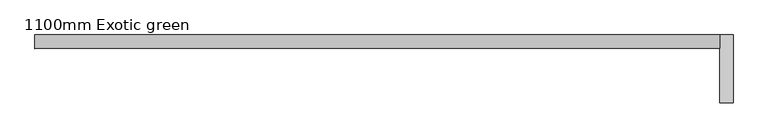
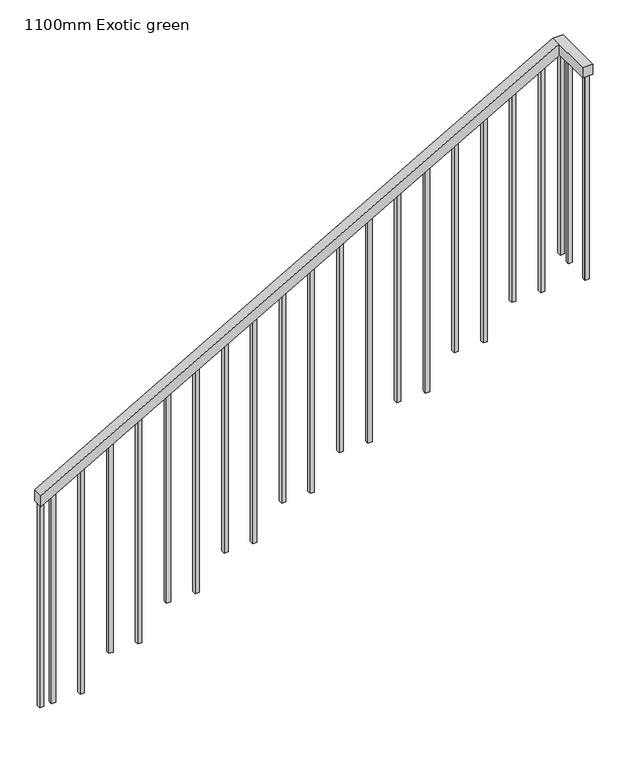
"""IFC4 building model written with IfcOpenShell, lengths in millimetres: railing geometry, 1100mm Exotic green."""

from ifc_helpers import new_model, si_unit, frame, origin, place, context, project, spatial, polyline, outline, extrude, faceted_brep, source, transform, mapped, element, save


def railing_1100mm_exotic_green_3447264b(model_context):
    return source(origin(), model_context, "Body", "SolidModel", [
        faceted_brep([(64486.8244986, 9412.1640155, 3760.0), (64486.8244986, 9412.1640155, 3702.4124447), (64486.8244986, 9362.1640155, 3702.4124447), (64486.8244986, 9362.1640155, 3760.0), (67006.8244986, 9362.1640155, 5200.0), (67006.8244986, 9412.1640155, 5200.0), (67020.1027205, 9362.1640155, 5150.0), (67020.1027205, 9412.1640155, 5150.0), (67031.8244986, 9412.1640155, 5200.0), (67031.8244986, 9362.1640155, 5200.0), (67031.8244986, 9362.1640155, 5150.0), (67031.8244986, 9412.1640155, 5150.0)], [[[0, 1, 2, 3]], [[0, 3, 4, 5]], [[3, 2, 6, 4]], [[2, 1, 7, 6]], [[1, 0, 5, 7]], [[8, 9, 10, 11]], [[7, 5, 8, 11]], [[6, 7, 11, 10]], [[4, 6, 10, 9]], [[5, 4, 9, 8]]]),
        faceted_brep([(67056.8244986, 9412.1640155, 5200.0), (67056.8244986, 9412.1640155, 5150.0), (67006.8244986, 9412.1640155, 5150.0), (67006.8244986, 9412.1640155, 5200.0), (67056.8244986, 9162.1658145, 5200.0), (67006.8244986, 9162.1658145, 5200.0), (67006.8244986, 9162.1658145, 5150.0), (67056.8244986, 9162.1658145, 5150.0)], [[[0, 1, 2, 3]], [[4, 5, 6, 7]], [[0, 3, 5, 4]], [[3, 2, 6, 5]], [[2, 1, 7, 6]], [[1, 0, 4, 7]]]),
        extrude(outline(polyline([(67041.8244986, 9187.1640155), (67041.8244986, 9167.1640155), (67021.8244986, 9167.1640155), (67021.8244986, 9187.1640155), (67041.8244986, 9187.1640155)])), frame((0.0, 0.0, 4100.0), z_axis=(0.0, 0.0, 1.0), x_axis=(1.0, 0.0, 0.0)), (0.0, 0.0, 1.0), 1050.0),
        extrude(outline(polyline([(67041.8244986, 9327.1640155), (67041.8244986, 9307.1640155), (67021.8244986, 9307.1640155), (67021.8244986, 9327.1640155), (67041.8244986, 9327.1640155)])), frame((0.0, 0.0, 4100.0), z_axis=(0.0, 0.0, 1.0), x_axis=(1.0, 0.0, 0.0)), (0.0, 0.0, 1.0), 1050.0),
        extrude(outline(polyline([(3940.0, 66926.8244986), (3940.0, 66946.8244986), (5115.7142857, 66946.8244986), (5104.2857143, 66926.8244986), (3940.0, 66926.8244986)])), frame((0.0, 9377.1640155, 0.0), z_axis=(0.0, 1.0, 0.0), x_axis=(0.0, 0.0, 1.0)), (0.0, 0.0, 1.0), 20.0),
        extrude(outline(polyline([(3940.0, 66786.8244986), (3940.0, 66806.8244986), (5035.7142857, 66806.8244986), (5024.2857143, 66786.8244986), (3940.0, 66786.8244986)])), frame((0.0, 9377.1640155, 0.0), z_axis=(0.0, 1.0, 0.0), x_axis=(0.0, 0.0, 1.0)), (0.0, 0.0, 1.0), 20.0),
        extrude(outline(polyline([(3780.0, 66646.8244986), (3780.0, 66666.8244986), (4955.7142857, 66666.8244986), (4944.2857143, 66646.8244986), (3780.0, 66646.8244986)])), frame((0.0, 9377.1640155, 0.0), z_axis=(0.0, 1.0, 0.0), x_axis=(0.0, 0.0, 1.0)), (0.0, 0.0, 1.0), 20.0),
        extrude(outline(polyline([(3780.0, 66506.8244986), (3780.0, 66526.8244986), (4875.7142857, 66526.8244986), (4864.2857143, 66506.8244986), (3780.0, 66506.8244986)])), frame((0.0, 9377.1640155, 0.0), z_axis=(0.0, 1.0, 0.0), x_axis=(0.0, 0.0, 1.0)), (0.0, 0.0, 1.0), 20.0),
        extrude(outline(polyline([(3620.0, 66366.8244986), (3620.0, 66386.8244986), (4795.7142857, 66386.8244986), (4784.2857143, 66366.8244986), (3620.0, 66366.8244986)])), frame((0.0, 9377.1640155, 0.0), z_axis=(0.0, 1.0, 0.0), x_axis=(0.0, 0.0, 1.0)), (0.0, 0.0, 1.0), 20.0),
        extrude(outline(polyline([(3620.0, 66226.8244986), (3620.0, 66246.8244986), (4715.7142857, 66246.8244986), (4704.2857143, 66226.8244986), (3620.0, 66226.8244986)])), frame((0.0, 9377.1640155, 0.0), z_axis=(0.0, 1.0, 0.0), x_axis=(0.0, 0.0, 1.0)), (0.0, 0.0, 1.0), 20.0),
        extrude(outline(polyline([(3460.0, 66086.8244986), (3460.0, 66106.8244986), (4635.7142857, 66106.8244986), (4624.2857143, 66086.8244986), (3460.0, 66086.8244986)])), frame((0.0, 9377.1640155, 0.0), z_axis=(0.0, 1.0, 0.0), x_axis=(0.0, 0.0, 1.0)), (0.0, 0.0, 1.0), 20.0),
        extrude(outline(polyline([(3460.0, 65946.8244986), (3460.0, 65966.8244986), (4555.7142857, 65966.8244986), (4544.2857143, 65946.8244986), (3460.0, 65946.8244986)])), frame((0.0, 9377.1640155, 0.0), z_axis=(0.0, 1.0, 0.0), x_axis=(0.0, 0.0, 1.0)), (0.0, 0.0, 1.0), 20.0),
        extrude(outline(polyline([(3300.0, 65806.8244986), (3300.0, 65826.8244986), (4475.7142857, 65826.8244986), (4464.2857143, 65806.8244986), (3300.0, 65806.8244986)])), frame((0.0, 9377.1640155, 0.0), z_axis=(0.0, 1.0, 0.0), x_axis=(0.0, 0.0, 1.0)), (0.0, 0.0, 1.0), 20.0),
        extrude(outline(polyline([(3300.0, 65666.8244986), (3300.0, 65686.8244986), (4395.7142857, 65686.8244986), (4384.2857143, 65666.8244986), (3300.0, 65666.8244986)])), frame((0.0, 9377.1640155, 0.0), z_axis=(0.0, 1.0, 0.0), x_axis=(0.0, 0.0, 1.0)), (0.0, 0.0, 1.0), 20.0),
        extrude(outline(polyline([(3140.0, 65526.8244986), (3140.0, 65546.8244986), (4315.7142857, 65546.8244986), (4304.2857143, 65526.8244986), (3140.0, 65526.8244986)])), frame((0.0, 9377.1640155, 0.0), z_axis=(0.0, 1.0, 0.0), x_axis=(0.0, 0.0, 1.0)), (0.0, 0.0, 1.0), 20.0),
        extrude(outline(polyline([(3140.0, 65386.8244986), (3140.0, 65406.8244986), (4235.7142857, 65406.8244986), (4224.2857143, 65386.8244986), (3140.0, 65386.8244986)])), frame((0.0, 9377.1640155, 0.0), z_axis=(0.0, 1.0, 0.0), x_axis=(0.0, 0.0, 1.0)), (0.0, 0.0, 1.0), 20.0),
        extrude(outline(polyline([(2980.0, 65246.8244986), (2980.0, 65266.8244986), (4155.7142857, 65266.8244986), (4144.2857143, 65246.8244986), (2980.0, 65246.8244986)])), frame((0.0, 9377.1640155, 0.0), z_axis=(0.0, 1.0, 0.0), x_axis=(0.0, 0.0, 1.0)), (0.0, 0.0, 1.0), 20.0),
        extrude(outline(polyline([(2980.0, 65106.8244986), (2980.0, 65126.8244986), (4075.7142857, 65126.8244986), (4064.2857143, 65106.8244986), (2980.0, 65106.8244986)])), frame((0.0, 9377.1640155, 0.0), z_axis=(0.0, 1.0, 0.0), x_axis=(0.0, 0.0, 1.0)), (0.0, 0.0, 1.0), 20.0),
        extrude(outline(polyline([(2820.0, 64966.8244986), (2820.0, 64986.8244986), (3995.7142857, 64986.8244986), (3984.2857143, 64966.8244986), (2820.0, 64966.8244986)])), frame((0.0, 9377.1640155, 0.0), z_axis=(0.0, 1.0, 0.0), x_axis=(0.0, 0.0, 1.0)), (0.0, 0.0, 1.0), 20.0),
        extrude(outline(polyline([(2820.0, 64826.8244986), (2820.0, 64846.8244986), (3915.7142857, 64846.8244986), (3904.2857143, 64826.8244986), (2820.0, 64826.8244986)])), frame((0.0, 9377.1640155, 0.0), z_axis=(0.0, 1.0, 0.0), x_axis=(0.0, 0.0, 1.0)), (0.0, 0.0, 1.0), 20.0),
        extrude(outline(polyline([(2660.0, 64686.8244986), (2660.0, 64706.8244986), (3835.7142857, 64706.8244986), (3824.2857143, 64686.8244986), (2660.0, 64686.8244986)])), frame((0.0, 9377.1640155, 0.0), z_axis=(0.0, 1.0, 0.0), x_axis=(0.0, 0.0, 1.0)), (0.0, 0.0, 1.0), 20.0),
        extrude(outline(polyline([(2660.0, 64546.8244986), (2660.0, 64566.8244986), (3755.7142857, 64566.8244986), (3744.2857143, 64546.8244986), (2660.0, 64546.8244986)])), frame((0.0, 9377.1640155, 0.0), z_axis=(0.0, 1.0, 0.0), x_axis=(0.0, 0.0, 1.0)), (0.0, 0.0, 1.0), 20.0),
        extrude(outline(polyline([(67021.8244986, 9397.1640155), (67041.8244986, 9397.1640155), (67041.8244986, 9377.1640155), (67021.8244986, 9377.1640155), (67021.8244986, 9397.1640155)])), frame((0.0, 0.0, 4100.0), z_axis=(0.0, 0.0, 1.0), x_axis=(1.0, 0.0, 0.0)), (0.0, 0.0, 1.0), 1050.0),
        extrude(outline(polyline([(67041.8244986, 9184.6658145), (67041.8244986, 9164.6658145), (67021.8244986, 9164.6658145), (67021.8244986, 9184.6658145), (67041.8244986, 9184.6658145)])), frame((0.0, 0.0, 4100.0), z_axis=(0.0, 0.0, 1.0), x_axis=(1.0, 0.0, 0.0)), (0.0, 0.0, 1.0), 1050.0),
        extrude(outline(polyline([(2660.0, 64489.3244986), (2660.0, 64509.3244986), (3722.8571429, 64509.3244986), (3711.4285714, 64489.3244986), (2660.0, 64489.3244986)])), frame((0.0, 9377.1640155, 0.0), z_axis=(0.0, 1.0, 0.0), x_axis=(0.0, 0.0, 1.0)), (0.0, 0.0, 1.0), 20.0),
    ])


if __name__ == "__main__":
    model = new_model("IFC4")
    model_context = context("Model", 3, world=origin())
    ifc_project = project(units=[si_unit("LENGTHUNIT", "METRE", prefix="MILLI")], contexts=[model_context])
    site = spatial("IfcSite", under=ifc_project)
    building = spatial("IfcBuilding", under=site)
    placement = place(None, origin())
    railing_1100mm_exotic_green_shape = railing_1100mm_exotic_green_3447264b(model_context)
    element("IfcRailing", 1, ObjectType="1100mm Exotic green", at=placement, inside=building, context=model_context, shape_type="MappedRepresentation", body=[
        mapped(railing_1100mm_exotic_green_shape, transform((0.0, 0.0, 0.0), x_axis=(1.0, 0.0, 0.0), y_axis=(0.0, 1.0, 0.0), z_axis=(0.0, 0.0, 1.0))),
    ])
    save(model, "model.ifc")
